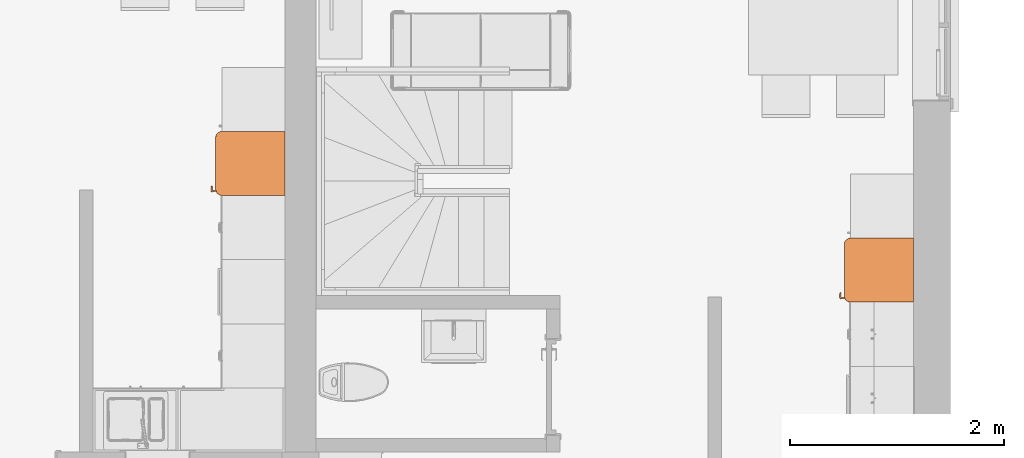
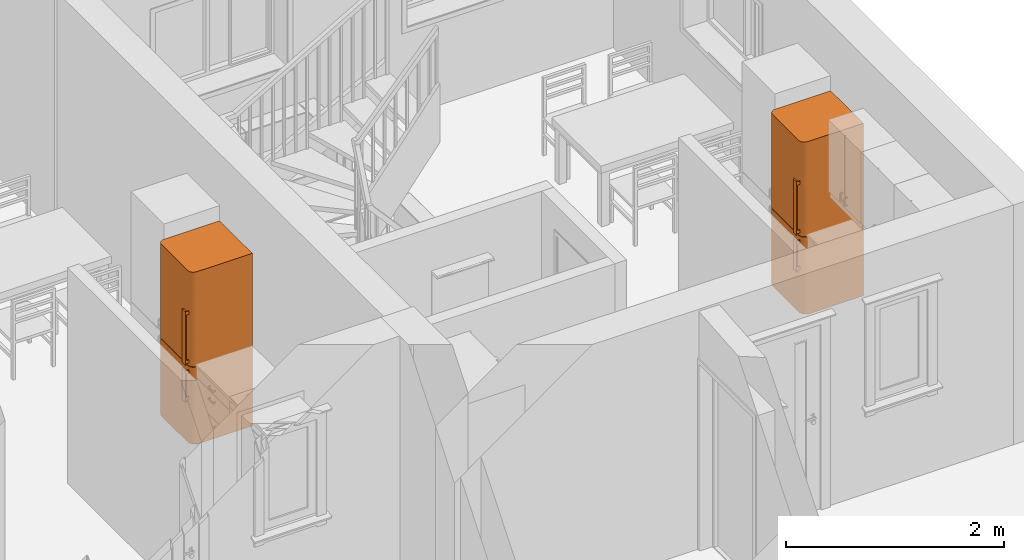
# One storey, part 65 of 65: 2 proxies.
"""IFC2X3 building model written with IfcOpenShell, lengths in millimetres."""

from ifc_helpers import new_model, entity, si_unit, converted_unit, direction, frame, origin, place, context, subcontext, project, spatial, faceted_brep, source, transform, mapped, material, type_object, type_shapes, element, save


model = new_model("IFC2X3")

# Units and contexts
model_context = context("Model", 3, precision=0.01, world=origin(), true_north=direction((0.0, 1.0)))
body_context = subcontext(model_context, "Body", "Model", "MODEL_VIEW")
ifc_project = project(units=[si_unit("LENGTHUNIT", "METRE", prefix="MILLI"), si_unit("AREAUNIT", "SQUARE_METRE"), si_unit("VOLUMEUNIT", "CUBIC_METRE"), converted_unit("PLANEANGLEUNIT", "DEGREE", entity("IfcPlaneAngleMeasure", 0.017453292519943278), si_unit("PLANEANGLEUNIT", "RADIAN"), dimensions=[0, 0, 0, 0, 0, 0, 0])], contexts=[model_context])

# Site, building, storey, space
site_placement = place(None, origin())
site = spatial("IfcSite", under=ifc_project, at=site_placement, Name="Default", CompositionType="ELEMENT")
building_placement = place(site_placement, origin())
building = spatial("IfcBuilding", under=site, at=building_placement, CompositionType="ELEMENT")
storey_placement = place(building_placement, origin())
storey = spatial("IfcBuildingStorey", under=building, at=storey_placement, Name="Et. 1", CompositionType="ELEMENT", Elevation=0.0)
space_1_placement = place(storey_placement, origin())
space_1 = spatial("IfcSpace", under=storey, at=space_1_placement, Name="113", CompositionType="ELEMENT", InteriorOrExteriorSpace="INTERNAL")

# Proxy
ifc_material = material(Name="Kjøkken - Hvitevarer")
building_element_proxy_type = type_object("IfcBuildingElementProxyType", Name="Kombiskap:Kombiskap", PredefinedType="NOTDEFINED", material=ifc_material)
shared_shape = source(origin(), body_context, "Body", "Brep", [
    faceted_brep([(10.414939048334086, 101.81681120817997, 795.0), (0.41493904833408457, 101.81681120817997, 795.0), (0.41493904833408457, 101.81681120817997, 830.0), (10.414939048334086, 101.81681120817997, 830.0), (10.414939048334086, 101.81681120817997, 500.0), (0.41493904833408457, 101.81681120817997, 500.0), (0.41493904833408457, 101.81681120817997, 535.0), (10.414939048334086, 101.81681120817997, 535.0), (-24.75248180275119, 57.32519776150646, 840.0), (-4.417640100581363, 57.325197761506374, 840.0), (15.414939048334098, 61.81681120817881, 840.0), (15.414939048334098, 71.81681120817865, 840.0), (-44.585060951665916, 71.81681120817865, 840.0), (-44.58506095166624, 61.81681120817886, 840.0), (-44.585060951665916, 71.81681120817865, 490.0), (15.414939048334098, 71.81681120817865, 490.0), (15.414939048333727, 61.816811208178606, 490.0), (-4.417640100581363, 57.325197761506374, 490.0), (-24.75248180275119, 57.32519776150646, 490.0), (-44.585060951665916, 61.81681120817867, 490.0), (10.414939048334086, 71.81681120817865, 795.0), (10.414939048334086, 71.81681120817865, 830.0), (10.414939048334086, 71.81681120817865, 535.0), (0.41493904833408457, 71.81681120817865, 830.0), (10.414939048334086, 71.81681120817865, 500.0), (0.41493904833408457, 71.81681120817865, 500.0), (0.41493904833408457, 71.81681120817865, 795.0), (0.41493904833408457, 71.81681120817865, 535.0)], [[[0, 1, 2, 3]], [[4, 5, 6, 7]], [[8, 9, 10, 11, 12, 13]], [[14, 15, 16, 17, 18, 19]], [[11, 20, 21]], [[20, 11, 22]], [[11, 21, 23]], [[23, 12, 11]], [[15, 22, 11]], [[22, 15, 24]], [[24, 15, 25]], [[14, 25, 15]], [[12, 26, 14]], [[27, 25, 14]], [[27, 14, 26]], [[12, 23, 26]], [[20, 22, 26]], [[22, 27, 26]], [[13, 12, 14, 19]], [[19, 18, 8, 13]], [[18, 17, 9, 8]], [[17, 16, 10, 9]], [[11, 10, 16, 15]], [[26, 23, 2, 1]], [[25, 27, 6, 5]], [[20, 26, 1, 0]], [[21, 20, 0, 3]], [[22, 24, 4, 7]], [[23, 21, 3, 2]], [[24, 25, 5, 4]], [[27, 22, 7, 6]]]),
    faceted_brep([(10.414939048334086, 101.81681120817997, 1455.0), (0.41493904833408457, 101.81681120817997, 1455.0), (0.41493904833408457, 101.81681120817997, 1490.0), (10.414939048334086, 101.81681120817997, 1490.0), (10.414939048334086, 101.81681120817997, 910.0), (0.41493904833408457, 101.81681120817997, 910.0), (0.41493904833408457, 101.81681120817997, 945.0), (10.414939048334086, 101.81681120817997, 945.0), (-24.75248180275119, 57.32519776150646, 1500.0), (-4.417640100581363, 57.325197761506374, 1500.0), (15.414939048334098, 61.81681120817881, 1500.0), (15.414939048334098, 71.81681120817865, 1500.0), (-44.585060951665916, 71.81681120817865, 1500.0), (-44.58506095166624, 61.81681120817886, 1500.0), (-44.585060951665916, 71.81681120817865, 900.0), (15.414939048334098, 71.81681120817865, 900.0), (15.414939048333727, 61.816811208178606, 900.0), (-4.417640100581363, 57.325197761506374, 900.0), (-24.75248180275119, 57.32519776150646, 900.0), (-44.585060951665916, 61.81681120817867, 900.0), (10.414939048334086, 71.81681120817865, 1455.0), (10.414939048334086, 71.81681120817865, 1490.0), (10.414939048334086, 71.81681120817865, 945.0), (0.41493904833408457, 71.81681120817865, 1490.0), (10.414939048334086, 71.81681120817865, 910.0), (0.41493904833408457, 71.81681120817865, 910.0), (0.41493904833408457, 71.81681120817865, 1455.0), (0.41493904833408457, 71.81681120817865, 945.0), (-44.58506095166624, 61.81681120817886, 1166.0142965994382), (-14.585060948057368, 56.75849161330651, 1200.0000000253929), (15.414939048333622, 61.81681120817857, 1233.985703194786)], [[[0, 1, 2, 3]], [[4, 5, 6, 7]], [[8, 9, 10, 11, 12, 13]], [[14, 15, 16, 17, 18, 19]], [[11, 20, 21]], [[20, 11, 22]], [[11, 21, 23]], [[23, 12, 11]], [[15, 22, 11]], [[22, 15, 24]], [[24, 15, 25]], [[14, 25, 15]], [[12, 26, 14]], [[27, 25, 14]], [[27, 14, 26]], [[12, 23, 26]], [[20, 22, 26]], [[22, 27, 26]], [[12, 14, 19, 28, 13]], [[28, 18, 29]], [[9, 8, 29]], [[19, 18, 28]], [[8, 13, 28]], [[10, 9, 30]], [[17, 16, 30]], [[28, 29, 8]], [[30, 29, 17]], [[18, 17, 29]], [[30, 9, 29]], [[11, 10, 30, 16, 15]], [[26, 23, 2, 1]], [[25, 27, 6, 5]], [[20, 26, 1, 0]], [[21, 20, 0, 3]], [[22, 24, 4, 7]], [[23, 21, 3, 2]], [[24, 25, 5, 4]], [[27, 22, 7, 6]]]),
    faceted_brep([(45.41493904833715, 751.8168112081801, 1930.0), (-554.5850609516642, 751.8168112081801, 1930.0), (-554.5850609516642, 161.81681120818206, 1930.0), (45.41493904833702, 161.81681120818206, 1930.0), (45.41493904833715, 751.8168112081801, 0.0), (45.41493904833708, 161.81681120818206, 0.0), (-554.5850609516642, 161.81681120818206, 0.0), (-554.5850609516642, 751.8168112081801, 0.0)], [[[0, 1, 2, 3]], [[4, 5, 6, 7]], [[1, 0, 4, 7]], [[2, 1, 7, 6]], [[3, 2, 6, 5]], [[0, 3, 5, 4]]]),
    faceted_brep([(-14.585060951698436, 101.81681120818, 873.0), (-14.58506095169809, 101.81681120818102, 1401.5000000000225), (-14.585060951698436, 101.81681120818, 1930.0), (-494.5850609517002, 101.81681120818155, 1930.0), (-494.5850609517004, 101.8168112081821, 1413.932630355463), (-494.5850609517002, 101.81681120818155, 873.0), (45.414939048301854, 161.8168112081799, 1930.0), (45.414939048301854, 161.81681120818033, 1413.9325289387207), (45.41493904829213, 161.8168112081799, 873.0), (-554.5850609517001, 161.81681120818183, 873.0), (-554.5850609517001, 161.816811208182, 1401.498940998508), (-554.5850609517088, 161.81681120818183, 1930.0), (43.37048862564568, 146.28766850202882, 873.0), (37.37646327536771, 131.8168112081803, 873.0), (27.841345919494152, 119.39040433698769, 873.0), (15.414939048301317, 109.85528698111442, 873.0), (0.9440817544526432, 103.86126163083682, 873.0), (-510.11420365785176, 103.86126163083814, 873.0), (-524.5850609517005, 109.855286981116, 873.0), (-537.0114678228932, 119.39040433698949, 873.0), (-546.5465851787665, 131.81681120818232, 873.0), (-552.5406105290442, 146.28766850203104, 873.0), (-552.5406105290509, 146.2876685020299, 1930.0), (-546.5465851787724, 131.81681120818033, 1930.0), (-537.0114678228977, 119.39040433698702, 1930.0), (-524.5850609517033, 109.85528698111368, 1930.0), (-510.11420365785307, 103.86126163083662, 1930.0), (0.9440817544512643, 103.86126163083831, 1930.0), (15.414939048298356, 109.85528698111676, 1930.0), (27.841345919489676, 119.39040433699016, 1930.0), (37.37646327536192, 131.81681120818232, 1930.0), (43.37048862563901, 146.28766850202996, 1930.0), (-517.5460669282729, 106.38403927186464, 1627.6261314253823), (-505.84676358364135, 102.88317010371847, 1288.3582073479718), (-517.5460668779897, 106.38403925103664, 1260.432413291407), (-505.11668121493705, 102.74833421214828, 1613.4477427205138), (-531.1107466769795, 114.21561077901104, 1401.4999997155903), (-550.0178329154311, 138.85580529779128, 1401.5000002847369), (-542.1862613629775, 125.29112545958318, 1260.432412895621), (-542.1862613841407, 125.29112548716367, 1627.6261311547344), (-553.4321777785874, 150.11139190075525, 1578.5237625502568), (-553.4321777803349, 150.11139190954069, 1219.3716082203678), (40.84771099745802, 138.85580526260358, 1627.626130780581), (44.348580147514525, 150.55510854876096, 1288.3582089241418), (40.847710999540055, 138.85580526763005, 1260.4324124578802), (44.4834160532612, 151.28519099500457, 1613.4477430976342), (33.01613946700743, 125.29112546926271, 1401.4999999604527), (8.375944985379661, 106.38403925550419, 1401.500000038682), (21.94062478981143, 114.2156107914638, 1260.4324124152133), (21.94062478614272, 114.2156107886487, 1627.626130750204), (-2.8796416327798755, 102.96969438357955, 1578.5237623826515), (-2.8796416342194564, 102.9696943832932, 1219.3716082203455)], [[[0, 1, 2, 3, 4, 5]], [[6, 7, 8, 9, 10, 11]], [[8, 12, 13, 14, 15, 16, 0, 5, 17, 18, 19, 20, 21, 9]], [[11, 22, 23, 24, 25, 26, 3, 2, 27, 28, 29, 30, 31, 6]], [[26, 25, 32]], [[33, 32, 34]], [[33, 35, 32]], [[36, 18, 34]], [[34, 32, 36]], [[26, 35, 3]], [[18, 17, 34]], [[19, 18, 36]], [[5, 4, 33]], [[24, 36, 25]], [[37, 38, 39]], [[3, 35, 4]], [[37, 23, 22]], [[37, 20, 38]], [[39, 36, 24]], [[40, 11, 10, 9, 41]], [[19, 36, 38]], [[23, 39, 24]], [[20, 37, 21]], [[20, 19, 38]], [[37, 41, 21]], [[41, 9, 21]], [[32, 35, 26]], [[36, 32, 25]], [[4, 35, 33]], [[34, 17, 33]], [[5, 33, 17]], [[37, 39, 23]], [[36, 39, 38]], [[40, 41, 37]], [[37, 22, 40]], [[11, 40, 22]], [[31, 30, 42]], [[43, 42, 44]], [[43, 45, 42]], [[46, 13, 44]], [[44, 42, 46]], [[31, 45, 6]], [[13, 12, 44]], [[14, 13, 46]], [[8, 7, 43]], [[29, 46, 30]], [[47, 48, 49]], [[6, 45, 7]], [[47, 28, 27]], [[47, 15, 48]], [[49, 46, 29]], [[50, 2, 1, 0, 51]], [[14, 46, 48]], [[28, 49, 29]], [[15, 47, 16]], [[15, 14, 48]], [[47, 51, 16]], [[51, 0, 16]], [[42, 45, 31]], [[46, 42, 30]], [[7, 45, 43]], [[44, 12, 43]], [[8, 43, 12]], [[47, 49, 28]], [[46, 49, 48]], [[50, 51, 47]], [[47, 27, 50]], [[2, 50, 27]]]),
    faceted_brep([(-554.5850609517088, 161.81681120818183, 867.0), (45.414939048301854, 161.8168112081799, 867.0), (45.414939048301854, 161.81681120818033, 550.9325289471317), (45.414939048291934, 161.8168112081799, 10.0), (-554.5850609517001, 161.81681120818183, 10.0), (-554.5850609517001, 161.816811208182, 438.50000000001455), (-504.93221619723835, 102.71574202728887, 332.4675984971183), (-510.11420365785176, 103.86126163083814, 867.0), (-517.5460668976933, 106.38403925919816, 376.1797676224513), (-552.5406105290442, 146.287668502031, 867.0), (-553.4321777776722, 150.11139189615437, 325.53651124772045), (-550.0178329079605, 138.85580527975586, 438.500000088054), (-494.5850609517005, 101.8168112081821, 550.9330778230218), (-531.1107466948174, 114.21561079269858, 438.49999988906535), (-524.5850609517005, 109.85528698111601, 10.0), (-524.5850609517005, 109.85528698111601, 867.0), (-494.5850609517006, 101.8168112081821, 867.0), (-537.0114678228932, 119.3904043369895, 867.0), (-494.5850609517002, 101.8168112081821, 10.0), (-537.0114678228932, 119.3904043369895, 10.0), (-510.11420365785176, 103.86126163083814, 10.0), (-546.5465851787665, 131.81681120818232, 867.0), (-542.1862613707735, 125.29112546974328, 376.1797672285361), (-546.5465851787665, 131.81681120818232, 10.0), (-552.5406105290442, 146.287668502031, 10.0), (44.516008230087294, 151.46965596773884, 332.46759725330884), (43.37048862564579, 146.28766850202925, 867.0), (40.8477109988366, 138.8558052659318, 376.1797665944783), (0.9440817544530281, 103.86126163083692, 867.0), (-2.879641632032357, 102.96969438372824, 325.53651100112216), (8.375944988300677, 106.38403925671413, 438.5000000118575), (33.01613946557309, 125.29112546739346, 438.4999999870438), (37.376463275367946, 131.8168112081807, 10.0), (37.376463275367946, 131.8168112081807, 867.0), (27.841345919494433, 119.39040433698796, 867.0), (27.841345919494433, 119.39040433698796, 10.0), (43.37048862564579, 146.28766850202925, 10.0), (15.414939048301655, 109.85528698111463, 867.0), (21.94062478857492, 114.21561079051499, 376.1797665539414), (-14.585060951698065, 101.81681120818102, 10.0), (-14.585060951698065, 101.81681120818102, 438.50000000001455), (15.414939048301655, 109.85528698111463, 10.0), (-14.585060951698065, 101.81681120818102, 867.0), (0.9440817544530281, 103.86126163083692, 10.0)], [[[0, 1, 2, 3, 4, 5]], [[6, 7, 8]], [[9, 10, 11]], [[7, 6, 12]], [[8, 13, 14]], [[13, 8, 15]], [[7, 12, 16]], [[17, 13, 15]], [[18, 12, 6]], [[13, 19, 14]], [[14, 20, 8]], [[21, 11, 22]], [[4, 10, 5]], [[11, 21, 9]], [[11, 23, 22]], [[17, 22, 13]], [[5, 9, 0]], [[19, 13, 22]], [[21, 22, 17]], [[6, 8, 20]], [[23, 19, 22]], [[11, 10, 24]], [[23, 11, 24]], [[15, 8, 7]], [[5, 10, 9]], [[18, 6, 20]], [[10, 4, 24]], [[25, 26, 27]], [[28, 29, 30]], [[26, 25, 2]], [[27, 31, 32]], [[31, 27, 33]], [[26, 2, 1]], [[34, 31, 33]], [[3, 2, 25]], [[31, 35, 32]], [[32, 36, 27]], [[37, 30, 38]], [[39, 29, 40]], [[30, 37, 28]], [[30, 41, 38]], [[34, 38, 31]], [[40, 28, 42]], [[35, 31, 38]], [[37, 38, 34]], [[25, 27, 36]], [[41, 35, 38]], [[30, 29, 43]], [[41, 30, 43]], [[33, 27, 26]], [[40, 29, 28]], [[3, 25, 36]], [[29, 39, 43]], [[39, 40, 42, 16, 12, 18]], [[7, 16, 42, 28, 37, 34, 33, 26, 1, 0, 9, 21, 17, 15]], [[43, 39, 18, 20, 14, 19, 23, 24, 4, 3, 36, 32, 35, 41]]]),
])
type_shapes(building_element_proxy_type, [shared_shape])
proxy_1_placement = place(space_1_placement, frame((33167.19277554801, 11201.473658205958, 0.0), z_axis=(0.0, 0.0, 1.0), x_axis=(0.0, -1.0, 0.0)))
element("IfcBuildingElementProxy", 1, at=proxy_1_placement, inside=space_1, type_object=building_element_proxy_type, material=ifc_material, Name="Kombiskap:Kombiskap", context=body_context, shape_type="MappedRepresentation", body=[
    mapped(shared_shape, transform((0.0, 0.0, 0.0), scale=1.0)),
])

# Space
space_2_placement = place(storey_placement, origin())
space_2 = spatial("IfcSpace", under=storey, at=space_2_placement, Name="109", CompositionType="ELEMENT", InteriorOrExteriorSpace="INTERNAL")

# Proxy
proxy_2_placement = place(space_2_placement, frame((27280.192775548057, 12201.473658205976, 0.0), z_axis=(0.0, 0.0, 1.0), x_axis=(0.0, -1.0, 0.0)))
element("IfcBuildingElementProxy", 2, at=proxy_2_placement, inside=space_2, type_object=building_element_proxy_type, material=ifc_material, Name="Kombiskap:Kombiskap", context=body_context, shape_type="MappedRepresentation", body=[
    mapped(shared_shape, transform((0.0, 0.0, 0.0), scale=1.0)),
])

save(model, "model.ifc")
